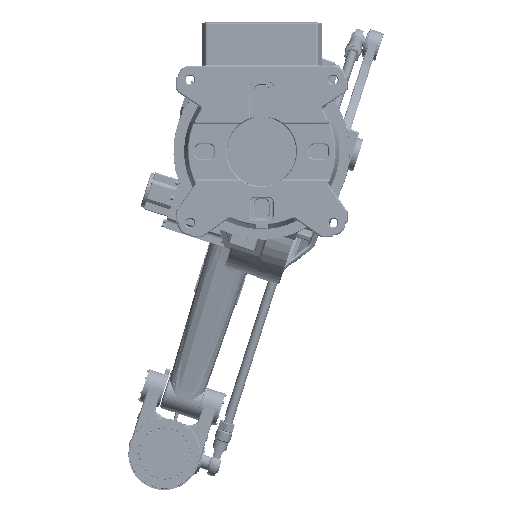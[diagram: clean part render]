
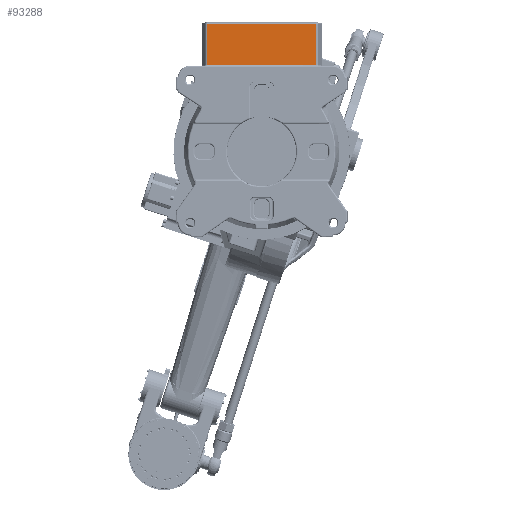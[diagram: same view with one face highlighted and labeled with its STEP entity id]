
A CAD part, front view. The second image highlights one B-rep face of the part: STEP entity #93288.
In plain terms, the highlighted planar face has unit normal (0, -1, 0).
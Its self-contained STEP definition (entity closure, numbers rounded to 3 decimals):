
#8796 = CARTESIAN_POINT ( 'NONE',  ( -114.157, -135.7, 268. ) ) ;
#8805 = DIRECTION ( 'NONE',  ( -1., 0., 0. ) ) ;
#24856 = LINE ( 'NONE', #36565, #24872 ) ;
#24872 = VECTOR ( 'NONE', #36575, 1000. ) ;
#24876 = LINE ( 'NONE', #36579, #24880 ) ;
#24878 = LINE ( 'NONE', #36593, #24884 ) ;
#24880 = VECTOR ( 'NONE', #36588, 1000. ) ;
#24884 = VECTOR ( 'NONE', #36598, 1000. ) ;
#25600 = EDGE_LOOP ( 'NONE', ( #30911, #30913, #30915, #30917 ) ) ;
#30911 = ORIENTED_EDGE ( 'NONE', *, *, #89517, .T. ) ;
#30913 = ORIENTED_EDGE ( 'NONE', *, *, #87835, .T. ) ;
#30915 = ORIENTED_EDGE ( 'NONE', *, *, #89520, .T. ) ;
#30917 = ORIENTED_EDGE ( 'NONE', *, *, #89524, .T. ) ;
#36565 = CARTESIAN_POINT ( 'NONE',  ( 114.157, -135.7, 0. ) ) ;
#36575 = DIRECTION ( 'NONE',  ( 0., 0., 1. ) ) ;
#36579 = CARTESIAN_POINT ( 'NONE',  ( -114.157, -135.7, 0. ) ) ;
#36588 = DIRECTION ( 'NONE',  ( 0., 0., -1. ) ) ;
#36593 = CARTESIAN_POINT ( 'NONE',  ( 0., -135.7, 181. ) ) ;
#36598 = DIRECTION ( 'NONE',  ( 1., 0., 0. ) ) ;
#82396 = FACE_OUTER_BOUND ( 'NONE', #25600, .T. ) ;
#87835 = EDGE_CURVE ( 'NONE', #109002, #108995, #206402, .T. ) ;
#89517 = EDGE_CURVE ( 'NONE', #110596, #109002, #24856, .T. ) ;
#89520 = EDGE_CURVE ( 'NONE', #108995, #109517, #24876, .T. ) ;
#89524 = EDGE_CURVE ( 'NONE', #109517, #110596, #24878, .T. ) ;
#93288 = ADVANCED_FACE ( 'NONE', ( #82396 ), #119037, .T. ) ;
#100637 = AXIS2_PLACEMENT_3D ( 'NONE', #119022, #119040, #119042 ) ;
#108995 = VERTEX_POINT ( 'NONE', #187552 ) ;
#109002 = VERTEX_POINT ( 'NONE', #187556 ) ;
#109517 = VERTEX_POINT ( 'NONE', #187921 ) ;
#110596 = VERTEX_POINT ( 'NONE', #188966 ) ;
#119022 = CARTESIAN_POINT ( 'NONE',  ( 0., -135.7, 0. ) ) ;
#119037 = PLANE ( 'NONE',  #100637 ) ;
#119040 = DIRECTION ( 'NONE',  ( 0., -1., 0. ) ) ;
#119042 = DIRECTION ( 'NONE',  ( 0., 0., -1. ) ) ;
#187552 = CARTESIAN_POINT ( 'NONE',  ( -114.157, -135.7, 268. ) ) ;
#187556 = CARTESIAN_POINT ( 'NONE',  ( 114.157, -135.7, 268. ) ) ;
#187921 = CARTESIAN_POINT ( 'NONE',  ( -114.157, -135.7, 181. ) ) ;
#188966 = CARTESIAN_POINT ( 'NONE',  ( 114.157, -135.7, 181. ) ) ;
#206402 = LINE ( 'NONE', #8796, #206414 ) ;
#206414 = VECTOR ( 'NONE', #8805, 1000. ) ;
